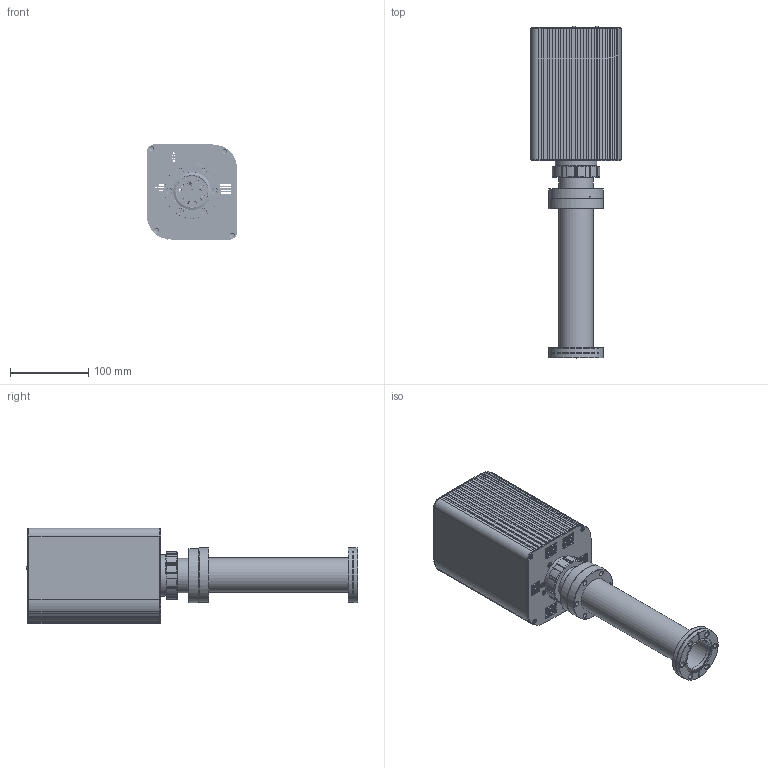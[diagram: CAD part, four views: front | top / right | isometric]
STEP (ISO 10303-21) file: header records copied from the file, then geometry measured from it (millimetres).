
FILE_DESCRIPTION(/* description */ (''),/* implementation_level */ '2;1');
FILE_NAME(/* name */ 'MPS100M(L203.2) v6.step',/* time_stamp */ '2023-11-13T12:45:49+09:00',/* author */ (''),/* organization */ (''),/* preprocessor_version */ 'ST-DEVELOPER v20',/* originating_system */ 'Autodesk Translation Framework v12.14.0.127',/* authorisation */ '');
FILE_SCHEMA (('AUTOMOTIVE_DESIGN { 1 0 10303 214 3 1 1 }'));
Products named in the file (7): MPS100M(L203.2); ICF70Rニップル(L=203)(溝付)
 v1; ICF34(t11.5)ブランクタップ(M4深さ6
)(JIS) v1; ICF70R38B-1; ICF70(t12.7)(φ44.5-φ41深さ5.
2)(溝付) v2; ICF34(t11.5)ブランクタップ(M4深さ6)
(JIS) v1 (1); WATMASS 外観図 v1
Assembly tree (6 placements, depth 4):
  MPS100M(L203.2)
    ICF70Rニップル(L=203)(溝付)
 v1
      ICF34(t11.5)ブランクタップ(M4深さ6
)(JIS) v1
      ICF70R38B-1
      ICF70(t12.7)(φ44.5-φ41深さ5.
2)(溝付) v2
        ICF34(t11.5)ブランクタップ(M4深さ6)
(JIS) v1 (1)
    WATMASS 外観図 v1
Bounding box: 114.96 x 423.3 x 121.67 mm (x, y, z)
Volume: 814397.2 mm3; surface area: 640185.4 mm2
Topology: 38 solids, 38 shells, 2542 faces, 6805 edges, 4387 vertices
Faces by surface type: cylinder 865, plane 859, cone 730, torus 57, bspline 29, sphere 2
Full cylindrical faces by diameter (mm): 0.716 x4, 1.6 x1, 1.68 x2, 2.05 x3, 2.184 x2, 2.489 x2, 2.497 x2, 2.5 x10, 2.594 x168, 3 x154, 3.048 x17, 3.15 x2, 3.3 x1, 3.5 x1, 3.556 x15, 3.81 x14, 3.988 x2, 4 x2, 4.09 x9, 4.318 x4, 4.801 x2, 4.928 x1, 5.08 x2, 5.488 x1, 6.17 x1, 6.35 x14, 6.5 x6, 6.6 x6, 6.8 x6, 7.798 x1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
Entity records: 95853 total; most frequent: CARTESIAN_POINT 32010, ORIENTED_EDGE 13590, DIRECTION 13105, EDGE_CURVE 6795, AXIS2_PLACEMENT_3D 4991, VERTEX_POINT 4387, LINE 3123, VECTOR 3123
